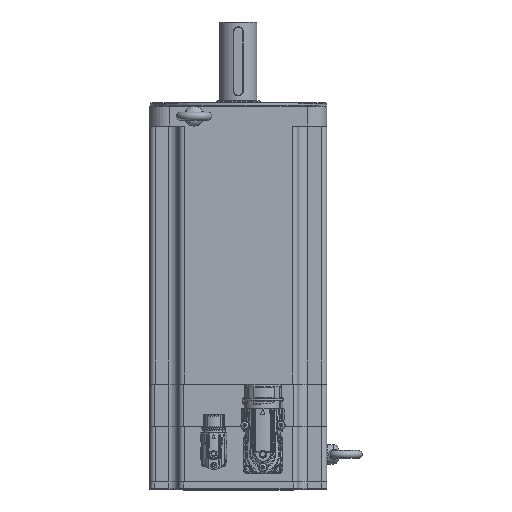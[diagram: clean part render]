
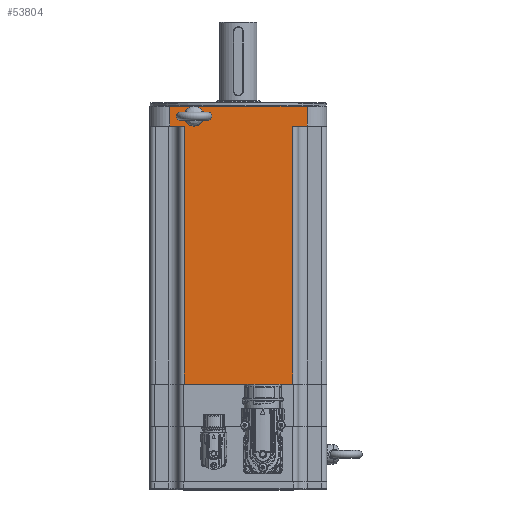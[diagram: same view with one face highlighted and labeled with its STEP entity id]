
A CAD part, top view. The second image highlights one B-rep face of the part: STEP entity #53804.
In plain terms, the highlighted planar face has unit normal (0, 0, 1).
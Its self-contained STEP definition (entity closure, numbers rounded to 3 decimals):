
#4620=PLANE('',#79226);
#6443=CIRCLE('',#79227,3.324);
#14616=ORIENTED_EDGE('',*,*,#27160,.T.);
#14617=ORIENTED_EDGE('',*,*,#27069,.F.);
#14618=ORIENTED_EDGE('',*,*,#27161,.T.);
#14619=ORIENTED_EDGE('',*,*,#27101,.F.);
#14620=ORIENTED_EDGE('',*,*,#27162,.T.);
#14621=ORIENTED_EDGE('',*,*,#27163,.F.);
#14622=ORIENTED_EDGE('',*,*,#27164,.T.);
#14623=ORIENTED_EDGE('',*,*,#27109,.F.);
#14624=ORIENTED_EDGE('',*,*,#27165,.T.);
#27069=EDGE_CURVE('',#34026,#34027,#38721,.T.);
#27101=EDGE_CURVE('',#34058,#34059,#38734,.T.);
#27109=EDGE_CURVE('',#34066,#34067,#38737,.T.);
#27160=EDGE_CURVE('',#34104,#34104,#6443,.T.);
#27161=EDGE_CURVE('',#34026,#34059,#38768,.F.);
#27162=EDGE_CURVE('',#34058,#34105,#38769,.T.);
#27163=EDGE_CURVE('',#34106,#34105,#38770,.T.);
#27164=EDGE_CURVE('',#34106,#34067,#38771,.F.);
#27165=EDGE_CURVE('',#34066,#34027,#38772,.T.);
#34026=VERTEX_POINT('',#109695);
#34027=VERTEX_POINT('',#109696);
#34058=VERTEX_POINT('',#109765);
#34059=VERTEX_POINT('',#109767);
#34066=VERTEX_POINT('',#109784);
#34067=VERTEX_POINT('',#109785);
#34104=VERTEX_POINT('',#109888);
#34105=VERTEX_POINT('',#109891);
#34106=VERTEX_POINT('',#109893);
#38721=LINE('',#109694,#41811);
#38734=LINE('',#109766,#41824);
#38737=LINE('',#109783,#41827);
#38768=LINE('',#109889,#41858);
#38769=LINE('',#109890,#41859);
#38770=LINE('',#109892,#41860);
#38771=LINE('',#109894,#41861);
#38772=LINE('',#109895,#41862);
#41811=VECTOR('',#89036,1000.);
#41824=VECTOR('',#89101,1000.);
#41827=VECTOR('',#89118,1000.);
#41858=VECTOR('',#89221,1000.);
#41859=VECTOR('',#89222,1000.);
#41860=VECTOR('',#89223,1000.);
#41861=VECTOR('',#89224,1000.);
#41862=VECTOR('',#89225,1000.);
#44928=EDGE_LOOP('',(#14616));
#44929=EDGE_LOOP('',(#14617,#14618,#14619,#14620,#14621,#14622,#14623,#14624));
#49141=FACE_BOUND('',#44928,.T.);
#49142=FACE_BOUND('',#44929,.T.);
#53804=ADVANCED_FACE('',(#49141,#49142),#4620,.T.);
#79226=AXIS2_PLACEMENT_3D('',#109886,#89217,#89218);
#79227=AXIS2_PLACEMENT_3D('',#109887,#89219,#89220);
#89036=DIRECTION('',(1.,0.,0.));
#89101=DIRECTION('',(1.,0.,0.));
#89118=DIRECTION('',(1.,0.,0.));
#89217=DIRECTION('',(0.,0.,1.));
#89218=DIRECTION('',(1.,0.,0.));
#89219=DIRECTION('',(0.,0.,-1.));
#89220=DIRECTION('',(0.,-1.,0.));
#89221=DIRECTION('',(0.,1.,0.));
#89222=DIRECTION('',(0.,-1.,0.));
#89223=DIRECTION('',(-1.,0.,0.));
#89224=DIRECTION('',(0.,-1.,0.));
#89225=DIRECTION('',(0.,1.,0.));
#109694=CARTESIAN_POINT('',(90.,283.8,90.));
#109695=CARTESIAN_POINT('',(-55.2,283.8,90.));
#109696=CARTESIAN_POINT('',(55.2,283.8,90.));
#109765=CARTESIAN_POINT('',(-70.,21.3,90.));
#109766=CARTESIAN_POINT('',(90.,21.3,90.));
#109767=CARTESIAN_POINT('',(-55.2,21.3,90.));
#109783=CARTESIAN_POINT('',(90.,21.3,90.));
#109784=CARTESIAN_POINT('',(55.2,21.3,90.));
#109785=CARTESIAN_POINT('',(70.,21.3,90.));
#109886=CARTESIAN_POINT('',(90.,488.463,90.));
#109887=CARTESIAN_POINT('',(45.,11.3,90.));
#109888=CARTESIAN_POINT('',(45.,7.976,90.));
#109889=CARTESIAN_POINT('',(-55.2,488.463,90.));
#109890=CARTESIAN_POINT('',(-70.,488.463,90.));
#109891=CARTESIAN_POINT('',(-70.,1.3,90.));
#109892=CARTESIAN_POINT('',(90.,1.3,90.));
#109893=CARTESIAN_POINT('',(70.,1.3,90.));
#109894=CARTESIAN_POINT('',(70.,488.463,90.));
#109895=CARTESIAN_POINT('',(55.2,488.463,90.));
